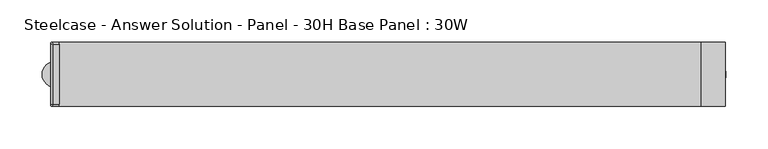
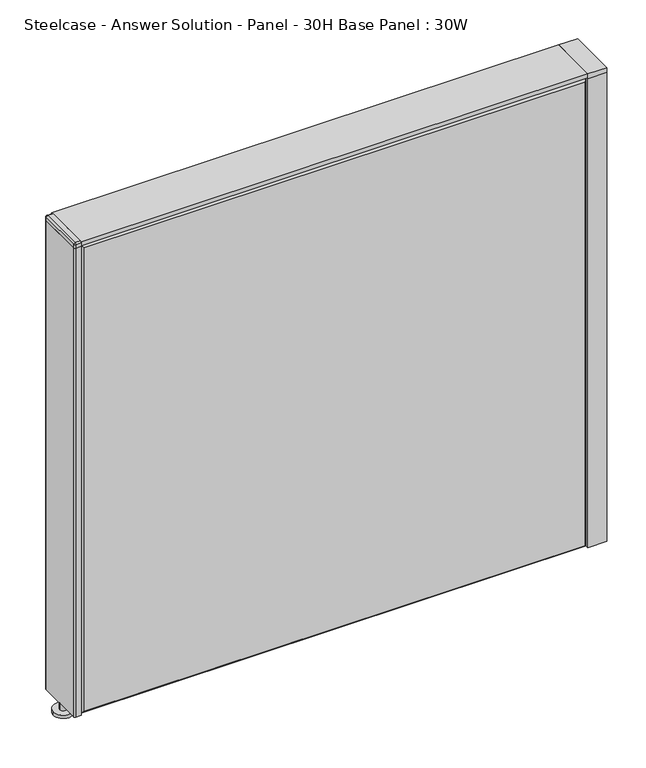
"""IFC4 building model written with IfcOpenShell, lengths in millimetres: furniture geometry, Steelcase - Answer Solution - Panel - 30H Base Panel : 30W."""

from ifc_helpers import new_model, si_unit, point, frame, frame_2d, origin, place, context, project, spatial, polyline, circle_curve, trimmed, segment, composite_curve, outline, extrude, faceted_brep, source, transform, mapped, element, save
from ifc_brep_helpers import plane_surface, spline_surface, advanced_brep


def steelcase_answer_solution_panel_30h_base_panel_30w_aae6d9e9(model_context):
    return source(origin(), model_context, "Body", "SolidModel", [
        extrude(outline(composite_curve([segment(trimmed(circle_curve(frame_2d((395.224, 0.0320214)), 5.08), [point((400.304, 0.0320214))], [point((390.144, 0.0320214))], False, "CARTESIAN"), True, "CONTINUOUS"), segment(trimmed(circle_curve(frame_2d((395.224, 0.0320214)), 5.08), [point((390.144, 0.0320214))], [point((400.304, 0.0320214))], False, "CARTESIAN"), True, "CONTINUOUS")], self_intersect=False)), frame((0.0, 0.0, 5.0799671), z_axis=(0.0, 0.0, 1.0), x_axis=(1.0, 0.0, 0.0)), (0.0, 0.0, 1.0), 10.414),
        extrude(outline(composite_curve([segment(trimmed(circle_curve(frame_2d((395.224, 0.0320214)), 15.24), [point((410.464, 0.0320214))], [point((379.984, 0.0320214))], False, "CARTESIAN"), True, "CONTINUOUS"), segment(trimmed(circle_curve(frame_2d((395.224, 0.0320214)), 15.24), [point((379.984, 0.0320214))], [point((410.464, 0.0320214))], False, "CARTESIAN"), True, "CONTINUOUS")], self_intersect=False)), frame((0.0, 0.0, -3.29e-05), z_axis=(0.0, 0.0, 1.0), x_axis=(1.0, 0.0, 0.0)), (0.0, 0.0, 1.0), 5.08),
        extrude(outline(polyline([(409.575, 38.1320408), (409.575, -38.0679592), (381.0, -38.0679592), (381.0, 38.1320408), (409.575, 38.1320408)])), frame((0.0, 0.0, 761.0348), z_axis=(0.0, 0.0, 1.0), x_axis=(1.0, 0.0, 0.0)), (0.0, 0.0, 1.0), 7.3151671),
        extrude(outline(polyline([(409.575, 38.1320408), (409.575, -38.0679592), (381.0, -38.0679592), (381.0, 38.1320408), (409.575, 38.1320408)])), frame((0.0, 0.0, 15.4939671), z_axis=(0.0, 0.0, 1.0), x_axis=(1.0, 0.0, 0.0)), (0.0, 0.0, 1.0), 745.5408329),
        extrude(outline(composite_curve([segment(trimmed(circle_curve(frame_2d((-386.08, -0.0320214)), 5.08), [point((-391.16, -0.0320214))], [point((-381.0, -0.0320214))], False, "CARTESIAN"), True, "CONTINUOUS"), segment(trimmed(circle_curve(frame_2d((-386.08, -0.0320214)), 5.08), [point((-381.0, -0.0320214))], [point((-391.16, -0.0320214))], False, "CARTESIAN"), True, "CONTINUOUS")], self_intersect=False)), frame((0.0, 0.0, 5.0799671), z_axis=(0.0, 0.0, 1.0), x_axis=(1.0, 0.0, 0.0)), (0.0, 0.0, 1.0), 10.414),
        extrude(outline(composite_curve([segment(trimmed(circle_curve(frame_2d((-386.08, -0.0320214)), 15.24), [point((-401.32, -0.0320214))], [point((-370.84, -0.0320214))], False, "CARTESIAN"), True, "CONTINUOUS"), segment(trimmed(circle_curve(frame_2d((-386.08, -0.0320214)), 15.24), [point((-370.84, -0.0320214))], [point((-401.32, -0.0320214))], False, "CARTESIAN"), True, "CONTINUOUS")], self_intersect=False)), frame((0.0, 0.0, -3.29e-05), z_axis=(0.0, 0.0, 1.0), x_axis=(1.0, 0.0, 0.0)), (0.0, 0.0, 1.0), 5.08),
        advanced_brep(
        [(-388.3406, 35.2485592, 768.3499671), (-388.3406, -35.3126408, 768.3499671), (-381.0, -35.3126408, 768.3499671), (-381.0, 35.2485592, 768.3499671), (-389.2151197, 38.0679592, 766.4704), (-391.16, 36.1230789, 766.4704), (-391.16, -36.2403105, 766.4704), (-389.2682696, -38.1320408, 766.4704), (-381.0, -38.1320408, 766.4704), (-381.0, 38.0679592, 766.4704)],
        [
            (0, 1),
            (1, 2),
            (2, 3),
            (3, 0),
            (4, 5, circle_curve(frame((-389.2151197, 36.1230789, 766.4704), z_axis=(0.0, 0.0, 1.0), x_axis=(0.0, -1.0, 0.0)), 1.9448803)),
            (5, 0),
            (0, 4),
            (5, 6),
            (6, 1),
            (6, 7, circle_curve(frame((-389.2682696, -36.2403105, 766.4704), z_axis=(0.0, 0.0, 1.0), x_axis=(0.0, -1.0, 0.0)), 1.8917304)),
            (7, 1),
            (7, 8),
            (8, 2),
            (8, 9),
            (9, 3),
            (9, 4),
        ],
        [
            plane_surface(frame((-384.6703, -0.0320408, 768.3499671), z_axis=(0.0, 0.0, 1.0), x_axis=(0.0, -1.0, 0.0))),
            spline_surface(2, 1, [[(-389.2151197, 38.0679592, 766.4704), (-388.3406, 35.2485592, 768.3499671)], [(-391.15999999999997, 38.06795919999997, 766.4704), (-388.3406, 35.2485592, 768.3499671)], [(-391.16, 36.1230789, 766.4704), (-388.3406, 35.2485592, 768.3499671)]], [3, 3], [2, 2], [0.0, 1.0], [0.0, 1.0], weights=[[1.0, 1.0], [0.7071067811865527, 0.7071067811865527], [1.0, 1.0]]),
            plane_surface(frame((-391.16, -0.0586158, 766.4704), z_axis=(-0.554693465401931, 0.0, 0.832054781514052), x_axis=(0.0, -1.0, 0.0))),
            spline_surface(2, 1, [[(-391.16, -36.2403105, 766.4704), (-388.3406, -35.3126408, 768.3499671)], [(-391.16000010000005, -38.13204090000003, 766.4704), (-388.3406, -35.3126408, 768.3499671)], [(-389.2682696, -38.1320408, 766.4704), (-388.3406, -35.3126408, 768.3499671)]], [3, 3], [2, 2], [0.0, 1.0], [0.0, 1.0], weights=[[1.0, 1.0], [0.7071067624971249, 0.7071067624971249], [1.0, 1.0]]),
            plane_surface(frame((-385.1341348, -38.1320408, 766.4704), z_axis=(0.0, -0.5546934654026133, 0.8320547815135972), x_axis=(1.0, 0.0, 0.0))),
            plane_surface(frame((-381.0, -0.0320408, 766.4704), z_axis=(1.0, 0.0, 0.0), x_axis=(0.0, 1.0, 0.0))),
            plane_surface(frame((-385.1075599, 38.0679592, 766.4704), z_axis=(0.0, 0.5546934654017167, 0.8320547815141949), x_axis=(-1.0, 0.0, 0.0))),
            plane_surface(frame((-387.1338982, -0.0408991, 766.4704), z_axis=(0.0, 0.0, -1.0), x_axis=(0.0, -1.0, 0.0))),
        ],
        [
            (0, [[1, 2, 3, 4]]),
            (1, [[5, 6, 7]]),
            (2, [[8, 9, -1, -6]]),
            (3, [[10, 11, -9]]),
            (4, [[12, 13, -2, -11]]),
            (5, [[14, 15, -3, -13]]),
            (6, [[16, -7, -4, -15]]),
            (7, [[-16, -14, -12, -10, -8, -5]]),
        ],
    ),
        extrude(outline(composite_curve([segment(polyline([(-391.16, -36.2403105), (-391.16, 36.1230789)]), True, "CONTINUOUS"), segment(trimmed(circle_curve(frame_2d((-389.2151197, 36.1230789)), 1.9448803), [point((-391.16, 36.1230789))], [point((-389.2151197, 38.0679592))], False, "CARTESIAN"), True, "CONTINUOUS"), segment(polyline([(-389.2151197, 38.0679592), (-381.0, 38.0679592), (-381.0, -38.1320408), (-389.2682696, -38.1320408)]), True, "CONTINUOUS"), segment(trimmed(circle_curve(frame_2d((-389.2682696, -36.2403105)), 1.8917304), [point((-389.2682696, -38.1320408))], [point((-391.16, -36.2403105))], False, "CARTESIAN"), True, "CONTINUOUS")], self_intersect=False)), frame((0.0, 0.0, 761.0348), z_axis=(0.0, 0.0, 1.0), x_axis=(1.0, 0.0, 0.0)), (0.0, 0.0, 1.0), 5.4356),
        extrude(outline(composite_curve([segment(polyline([(-391.16, -36.2599466), (-391.16, 36.1273143)]), True, "CONTINUOUS"), segment(trimmed(circle_curve(frame_2d((-389.2193552, 36.1273143)), 1.9406448), [point((-391.16, 36.1273143))], [point((-389.2193552, 38.0679592))], False, "CARTESIAN"), True, "CONTINUOUS"), segment(polyline([(-389.2193552, 38.0679592), (-381.0, 38.0679592), (-381.0, -38.1320408), (-389.2879058, -38.1320408)]), True, "CONTINUOUS"), segment(trimmed(circle_curve(frame_2d((-389.2879058, -36.2599466)), 1.8720942), [point((-389.2879058, -38.1320408))], [point((-391.16, -36.2599466))], False, "CARTESIAN"), True, "CONTINUOUS")], self_intersect=False)), frame((0.0, 0.0, 15.4939671), z_axis=(0.0, 0.0, 1.0), x_axis=(1.0, 0.0, 0.0)), (0.0, 0.0, 1.0), 745.5408329),
        faceted_brep([(376.174, 38.1635011, 757.174), (376.174, 38.1635011, 20.32), (-376.174, 38.1635011, 20.32), (-376.174, 38.1635011, 757.174), (381.0, 33.3375011, 762.0), (-381.0, 33.3375011, 762.0), (-381.0, 33.3375011, 15.494), (381.0, 33.3375011, 15.494)], [[[0, 1, 2, 3]], [[4, 5, 6, 7]], [[4, 0, 3, 5]], [[5, 3, 2, 6]], [[6, 2, 1, 7]], [[7, 1, 0, 4]]]),
        faceted_brep([(376.174, -38.1635011, 757.174), (-376.174, -38.1635011, 757.174), (-376.174, -38.1635011, 20.32), (376.174, -38.1635011, 20.32), (381.0, -33.3375011, 762.0), (381.0, -33.3375011, 15.494), (-381.0, -33.3375011, 15.494), (-381.0, -33.3375011, 762.0)], [[[0, 1, 2, 3]], [[4, 5, 6, 7]], [[4, 7, 1, 0]], [[7, 6, 2, 1]], [[6, 5, 3, 2]], [[5, 4, 0, 3]]]),
        extrude(outline(polyline([(381.0, 38.1000194), (381.0, -38.1000194), (-381.0, -38.1000194), (-381.0, 38.1000194), (381.0, 38.1000194)])), frame((0.0, 0.0, 762.0), z_axis=(0.0, 0.0, 1.0), x_axis=(1.0, 0.0, 0.0)), (0.0, 0.0, 1.0), 6.35),
    ])


if __name__ == "__main__":
    model = new_model("IFC4")
    model_context = context("Model", 3, world=origin())
    ifc_project = project(units=[si_unit("LENGTHUNIT", "METRE", prefix="MILLI")], contexts=[model_context])
    site = spatial("IfcSite", under=ifc_project)
    building = spatial("IfcBuilding", under=site)
    placement = place(None, origin())
    steelcase_answer_solution_panel_30h_base_panel_30w_shape = steelcase_answer_solution_panel_30h_base_panel_30w_aae6d9e9(model_context)
    element("IfcFurniture", 1, ObjectType="Steelcase - Answer Solution - Panel - 30H Base Panel : 30W", at=placement, inside=building, context=model_context, shape_type="MappedRepresentation", body=[
        mapped(steelcase_answer_solution_panel_30h_base_panel_30w_shape, transform((0.0, 0.0, 0.0), x_axis=(1.0, 0.0, 0.0), y_axis=(0.0, 1.0, 0.0), z_axis=(0.0, 0.0, 1.0))),
    ])
    save(model, "model.ifc")
